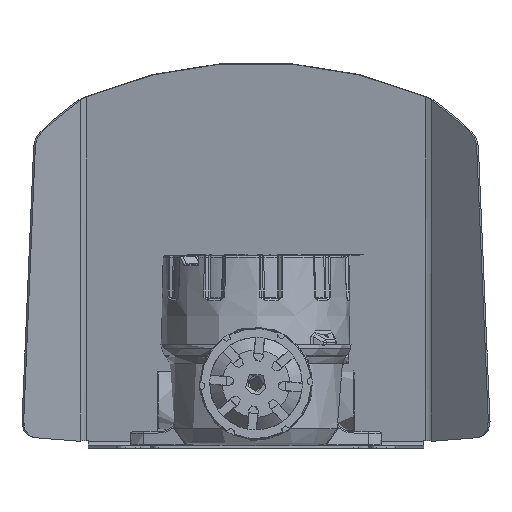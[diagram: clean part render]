
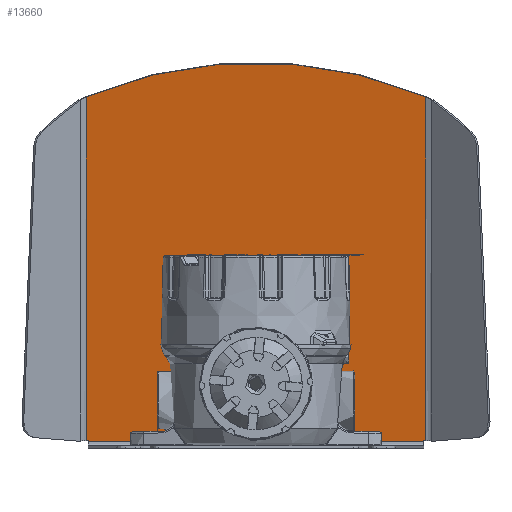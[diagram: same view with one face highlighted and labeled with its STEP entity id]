
A CAD part, front view. The second image highlights one B-rep face of the part: STEP entity #13660.
In plain terms, the highlighted planar face has unit normal (0, -0.985, -0.174) as drawn and (0, 0, 1) by its records, which use the part's own axes.
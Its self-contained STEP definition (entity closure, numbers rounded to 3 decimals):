
#13660=ADVANCED_FACE('',(#62738),#62740,.T.);
#62738=FACE_BOUND('',#62739,.T.);
#62739=EDGE_LOOP('',(#89187,#89188,#89189,#89190,#89191,#89192,#89193,#89194));
#62740=PLANE('',#62741);
#62741=AXIS2_PLACEMENT_3D('',#62742,#62743,#62744);
#62742=CARTESIAN_POINT('',(0.,0.,1.5));
#62743=DIRECTION('',(0.,0.,1.));
#62744=DIRECTION('',(1.,0.,0.));
#89187=ORIENTED_EDGE('',*,*,#113178,.T.);
#89188=ORIENTED_EDGE('',*,*,#113179,.T.);
#89189=ORIENTED_EDGE('',*,*,#113180,.T.);
#89190=ORIENTED_EDGE('',*,*,#113181,.T.);
#89191=ORIENTED_EDGE('',*,*,#113182,.T.);
#89192=ORIENTED_EDGE('',*,*,#113183,.F.);
#89193=ORIENTED_EDGE('',*,*,#113184,.T.);
#89194=ORIENTED_EDGE('',*,*,#113185,.T.);
#113178=EDGE_CURVE('',#126543,#126544,#126545,.T.);
#113179=EDGE_CURVE('',#126544,#126546,#126547,.T.);
#113180=EDGE_CURVE('',#126546,#126548,#126549,.T.);
#113181=EDGE_CURVE('',#126548,#126550,#126551,.T.);
#113182=EDGE_CURVE('',#126550,#126552,#126553,.T.);
#113183=EDGE_CURVE('',#126554,#126552,#126555,.T.);
#113184=EDGE_CURVE('',#126554,#126556,#126557,.T.);
#113185=EDGE_CURVE('',#126556,#126543,#126558,.T.);
#126543=VERTEX_POINT('',#169885);
#126544=VERTEX_POINT('',#169886);
#126545=LINE('',#169887,#169888);
#126546=VERTEX_POINT('',#169890);
#126547=LINE('',#169891,#169892);
#126548=VERTEX_POINT('',#169894);
#126549=LINE('',#169895,#169896);
#126550=VERTEX_POINT('',#169898);
#126551=LINE('',#169899,#169900);
#126552=VERTEX_POINT('',#169902);
#126553=CIRCLE('',#169903,250.);
#126554=VERTEX_POINT('',#169907);
#126555=LINE('',#169908,#169909);
#126556=VERTEX_POINT('',#169911);
#126557=LINE('',#169912,#169913);
#126558=LINE('',#169915,#169916);
#169885=CARTESIAN_POINT('',(-97.,-0.616,1.5));
#169886=CARTESIAN_POINT('',(97.,-0.616,1.5));
#169887=CARTESIAN_POINT('',(-97.,-0.616,1.5));
#169888=VECTOR('',#169889,1.);
#169889=DIRECTION('',(1.,0.,0.));
#169890=CARTESIAN_POINT('',(97.,0.,1.5));
#169891=CARTESIAN_POINT('',(97.,-0.616,1.5));
#169892=VECTOR('',#169893,1.);
#169893=DIRECTION('',(0.,1.,0.));
#169894=CARTESIAN_POINT('',(98.18,0.,1.5));
#169895=CARTESIAN_POINT('',(97.,0.,1.5));
#169896=VECTOR('',#169897,1.);
#169897=DIRECTION('',(1.,0.,0.));
#169898=CARTESIAN_POINT('',(98.18,201.914,1.5));
#169899=CARTESIAN_POINT('',(98.18,0.,1.5));
#169900=VECTOR('',#169901,1.);
#169901=DIRECTION('',(0.,1.,0.));
#169902=CARTESIAN_POINT('',(-98.18,201.914,1.5));
#169903=AXIS2_PLACEMENT_3D('',#169904,#169905,#169906);
#169904=CARTESIAN_POINT('',(0.,-28.,1.5));
#169905=DIRECTION('',(0.,0.,1.));
#169906=DIRECTION('',(0.393,0.92,0.));
#169907=CARTESIAN_POINT('',(-98.18,0.,1.5));
#169908=CARTESIAN_POINT('',(-98.18,0.,1.5));
#169909=VECTOR('',#169910,1.);
#169910=DIRECTION('',(0.,1.,0.));
#169911=CARTESIAN_POINT('',(-97.,0.,1.5));
#169912=CARTESIAN_POINT('',(-98.18,0.,1.5));
#169913=VECTOR('',#169914,1.);
#169914=DIRECTION('',(1.,0.,0.));
#169915=CARTESIAN_POINT('',(-97.,0.,1.5));
#169916=VECTOR('',#169917,1.);
#169917=DIRECTION('',(0.,-1.,0.));
